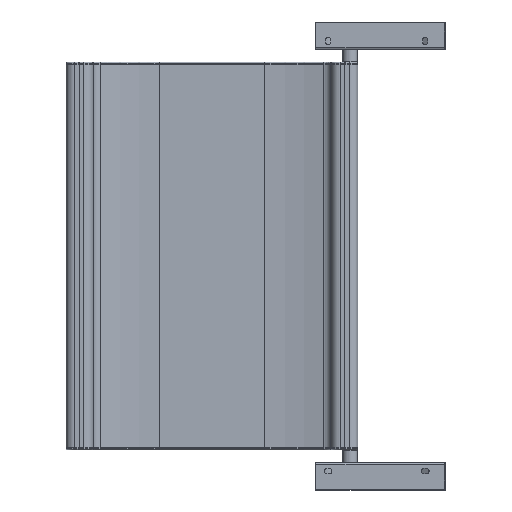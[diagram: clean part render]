
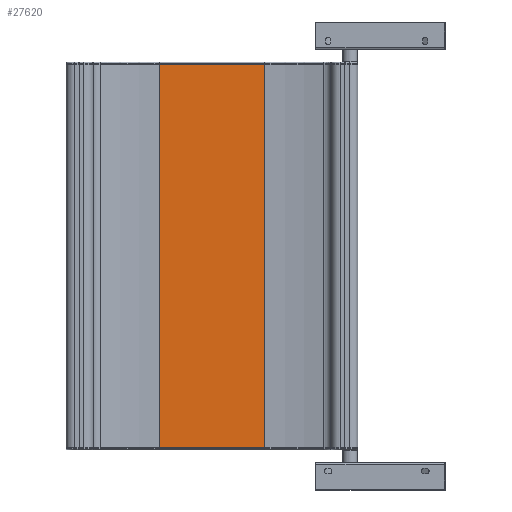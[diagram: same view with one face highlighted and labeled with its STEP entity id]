
A CAD part, front view. The second image highlights one B-rep face of the part: STEP entity #27620.
In plain terms, the highlighted planar face has unit normal (0, -1, 0) as drawn and (0, 0, 1) by its records, which use the part's own axes.
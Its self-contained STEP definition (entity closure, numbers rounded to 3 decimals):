
#27562=CARTESIAN_POINT('',(7500.544,19593.719,-1197.032));
#27563=VERTEX_POINT('',#27562);
#27571=CARTESIAN_POINT('',(7500.544,20383.719,-1197.032));
#27572=VERTEX_POINT('',#27571);
#27573=CARTESIAN_POINT('',(7500.544,20383.719,-1197.032));
#27574=DIRECTION('',(0.0,-1.0,0.0));
#27575=VECTOR('',#27574,790.0);
#27576=LINE('',#27573,#27575);
#27577=EDGE_CURVE('',#27572,#27563,#27576,.T.);
#27590=CARTESIAN_POINT('',(7500.544,20383.719,-1197.032));
#27591=DIRECTION('',(0.0,0.0,1.0));
#27592=DIRECTION('',(1.0,0.0,0.0));
#27593=AXIS2_PLACEMENT_3D('',#27590,#27591,#27592);
#27594=PLANE('',#27593);
#27595=CARTESIAN_POINT('',(7718.007,19593.719,-1197.032));
#27596=VERTEX_POINT('',#27595);
#27597=CARTESIAN_POINT('',(7500.544,19593.719,-1197.032));
#27598=DIRECTION('',(1.0,0.0,0.0));
#27599=VECTOR('',#27598,217.464);
#27600=LINE('',#27597,#27599);
#27601=EDGE_CURVE('',#27563,#27596,#27600,.T.);
#27602=ORIENTED_EDGE('',*,*,#27601,.T.);
#27603=CARTESIAN_POINT('',(7718.007,20383.719,-1197.032));
#27604=VERTEX_POINT('',#27603);
#27605=CARTESIAN_POINT('',(7718.007,20383.719,-1197.032));
#27606=DIRECTION('',(0.0,-1.0,0.0));
#27607=VECTOR('',#27606,790.0);
#27608=LINE('',#27605,#27607);
#27609=EDGE_CURVE('',#27604,#27596,#27608,.T.);
#27610=ORIENTED_EDGE('',*,*,#27609,.F.);
#27611=CARTESIAN_POINT('',(7500.544,20383.719,-1197.032));
#27612=DIRECTION('',(1.0,0.0,0.0));
#27613=VECTOR('',#27612,217.464);
#27614=LINE('',#27611,#27613);
#27615=EDGE_CURVE('',#27572,#27604,#27614,.T.);
#27616=ORIENTED_EDGE('',*,*,#27615,.F.);
#27617=ORIENTED_EDGE('',*,*,#27577,.T.);
#27618=EDGE_LOOP('',(#27602,#27610,#27616,#27617));
#27619=FACE_OUTER_BOUND('',#27618,.T.);
#27620=ADVANCED_FACE('',(#27619),#27594,.T.);
